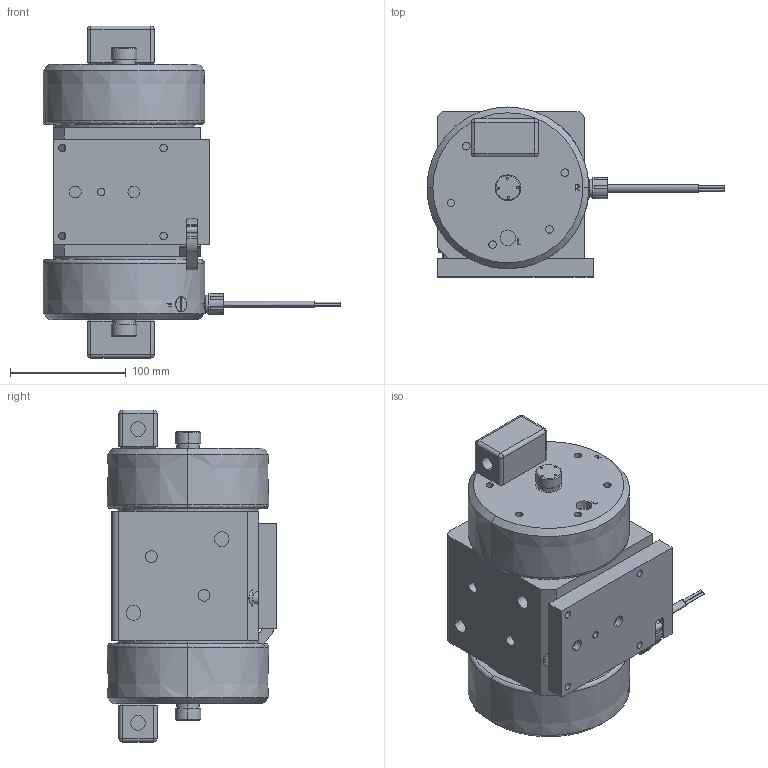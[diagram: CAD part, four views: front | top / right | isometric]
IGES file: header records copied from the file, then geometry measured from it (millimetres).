
Start section: SolidWorks IGES file using analytic representation for surfaces
Global section: file name: S:\Product Visuals\FILES FOR PUBLICATION\SOLID MODELS FOR PUBLICATION\pfa060\pfa060-solid-model.IGS; native system: SolidWorks 2012; preprocessor: SolidWorks 2012; author: rachel.dressel; date: 121120.132927; units: inch
Bounding box: 257.3 x 146.63 x 286.72 mm (x, y, z)
Volume: 3697282.6 mm3; surface area: 198151.8 mm2
Topology: 1 solids, 18 shells, 1196 faces, 2989 edges, 1954 vertices
Faces by surface type: plane 820, revolution 261, bspline 115
